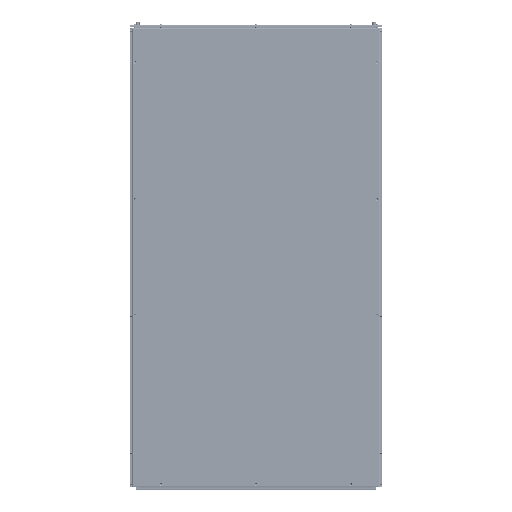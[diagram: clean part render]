
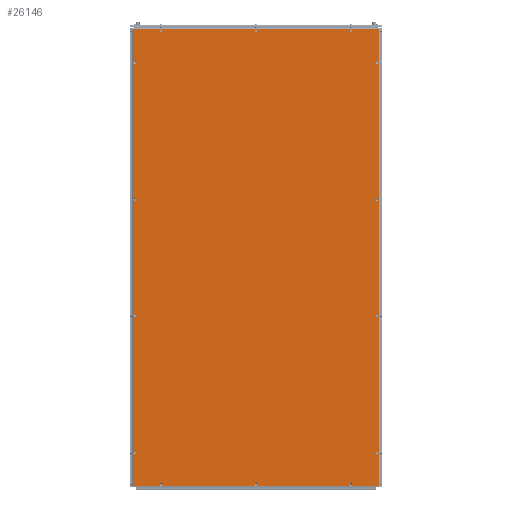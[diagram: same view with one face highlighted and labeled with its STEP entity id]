
A CAD part, left-side view. The second image highlights one B-rep face of the part: STEP entity #26146.
In plain terms, the highlighted planar face has unit normal (-1, 0, 0) as drawn and (1, 0, 0) by its records, which use the part's own axes.
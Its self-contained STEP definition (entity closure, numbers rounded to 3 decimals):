
#26146=ADVANCED_FACE('',(#162443,#162445,#162447,#162449,#162451,#162453,#162455,
#162457,#162459,#162461,#162463,#162465,#162467,#162469,#162471),#162473,.T.);
#162443=FACE_BOUND('',#162444,.T.);
#162444=EDGE_LOOP('',(#386777,#386778,#386779,#386780));
#162445=FACE_BOUND('',#162446,.T.);
#162446=EDGE_LOOP('',(#386781));
#162447=FACE_BOUND('',#162448,.T.);
#162448=EDGE_LOOP('',(#386782));
#162449=FACE_BOUND('',#162450,.T.);
#162450=EDGE_LOOP('',(#386783));
#162451=FACE_BOUND('',#162452,.T.);
#162452=EDGE_LOOP('',(#386784));
#162453=FACE_BOUND('',#162454,.T.);
#162454=EDGE_LOOP('',(#386785));
#162455=FACE_BOUND('',#162456,.T.);
#162456=EDGE_LOOP('',(#386786));
#162457=FACE_BOUND('',#162458,.T.);
#162458=EDGE_LOOP('',(#386787));
#162459=FACE_BOUND('',#162460,.T.);
#162460=EDGE_LOOP('',(#386788));
#162461=FACE_BOUND('',#162462,.T.);
#162462=EDGE_LOOP('',(#386789));
#162463=FACE_BOUND('',#162464,.T.);
#162464=EDGE_LOOP('',(#386790));
#162465=FACE_BOUND('',#162466,.T.);
#162466=EDGE_LOOP('',(#386791));
#162467=FACE_BOUND('',#162468,.T.);
#162468=EDGE_LOOP('',(#386792));
#162469=FACE_BOUND('',#162470,.T.);
#162470=EDGE_LOOP('',(#386793));
#162471=FACE_BOUND('',#162472,.T.);
#162472=EDGE_LOOP('',(#386794));
#162473=PLANE('',#162474);
#162474=AXIS2_PLACEMENT_3D('',#162475,#162476,#162477);
#162475=CARTESIAN_POINT('',(1.5,0.,0.));
#162476=DIRECTION('',(1.,0.,0.));
#162477=DIRECTION('',(0.,1.,0.));
#386777=ORIENTED_EDGE('',*,*,#435926,.T.);
#386778=ORIENTED_EDGE('',*,*,#435932,.T.);
#386779=ORIENTED_EDGE('',*,*,#435930,.T.);
#386780=ORIENTED_EDGE('',*,*,#435928,.T.);
#386781=ORIENTED_EDGE('',*,*,#435947,.T.);
#386782=ORIENTED_EDGE('',*,*,#435948,.T.);
#386783=ORIENTED_EDGE('',*,*,#435949,.T.);
#386784=ORIENTED_EDGE('',*,*,#435950,.T.);
#386785=ORIENTED_EDGE('',*,*,#435951,.T.);
#386786=ORIENTED_EDGE('',*,*,#435952,.T.);
#386787=ORIENTED_EDGE('',*,*,#435953,.T.);
#386788=ORIENTED_EDGE('',*,*,#435954,.T.);
#386789=ORIENTED_EDGE('',*,*,#435955,.T.);
#386790=ORIENTED_EDGE('',*,*,#435956,.T.);
#386791=ORIENTED_EDGE('',*,*,#435957,.T.);
#386792=ORIENTED_EDGE('',*,*,#435958,.T.);
#386793=ORIENTED_EDGE('',*,*,#435959,.T.);
#386794=ORIENTED_EDGE('',*,*,#435960,.T.);
#435926=EDGE_CURVE('',#503910,#503908,#503911,.T.);
#435928=EDGE_CURVE('',#503913,#503910,#503914,.T.);
#435930=EDGE_CURVE('',#503916,#503913,#503917,.T.);
#435932=EDGE_CURVE('',#503908,#503916,#503919,.T.);
#435947=EDGE_CURVE('',#503948,#503948,#503949,.F.);
#435948=EDGE_CURVE('',#503950,#503950,#503951,.F.);
#435949=EDGE_CURVE('',#503952,#503952,#503953,.F.);
#435950=EDGE_CURVE('',#503954,#503954,#503955,.F.);
#435951=EDGE_CURVE('',#503956,#503956,#503957,.F.);
#435952=EDGE_CURVE('',#503958,#503958,#503959,.F.);
#435953=EDGE_CURVE('',#503960,#503960,#503961,.F.);
#435954=EDGE_CURVE('',#503962,#503962,#503963,.F.);
#435955=EDGE_CURVE('',#503964,#503964,#503965,.F.);
#435956=EDGE_CURVE('',#503966,#503966,#503967,.F.);
#435957=EDGE_CURVE('',#503968,#503968,#503969,.F.);
#435958=EDGE_CURVE('',#503970,#503970,#503971,.F.);
#435959=EDGE_CURVE('',#503972,#503972,#503973,.F.);
#435960=EDGE_CURVE('',#503974,#503974,#503975,.T.);
#503908=VERTEX_POINT('',#658019);
#503910=VERTEX_POINT('',#658024);
#503911=LINE('',#658025,#658026);
#503913=VERTEX_POINT('',#658032);
#503914=LINE('',#658033,#658034);
#503916=VERTEX_POINT('',#658040);
#503917=LINE('',#658041,#658042);
#503919=LINE('',#658048,#658049);
#503948=VERTEX_POINT('',#658121);
#503949=CIRCLE('',#658122,6.954);
#503950=VERTEX_POINT('',#658126);
#503951=CIRCLE('',#658127,6.954);
#503952=VERTEX_POINT('',#658131);
#503953=CIRCLE('',#658132,6.954);
#503954=VERTEX_POINT('',#658136);
#503955=CIRCLE('',#658137,6.954);
#503956=VERTEX_POINT('',#658141);
#503957=CIRCLE('',#658142,6.954);
#503958=VERTEX_POINT('',#658146);
#503959=CIRCLE('',#658147,6.954);
#503960=VERTEX_POINT('',#658151);
#503961=CIRCLE('',#658152,6.954);
#503962=VERTEX_POINT('',#658156);
#503963=CIRCLE('',#658157,6.954);
#503964=VERTEX_POINT('',#658161);
#503965=CIRCLE('',#658162,6.954);
#503966=VERTEX_POINT('',#658166);
#503967=CIRCLE('',#658167,6.954);
#503968=VERTEX_POINT('',#658171);
#503969=CIRCLE('',#658172,6.954);
#503970=VERTEX_POINT('',#658176);
#503971=CIRCLE('',#658177,6.954);
#503972=VERTEX_POINT('',#658181);
#503973=CIRCLE('',#658182,6.954);
#503974=VERTEX_POINT('',#658186);
#503975=CIRCLE('',#658187,6.954);
#658019=CARTESIAN_POINT('',(1.5,-583.7,-1082.7));
#658024=CARTESIAN_POINT('',(1.5,-583.7,1082.7));
#658025=CARTESIAN_POINT('',(1.5,-583.7,1082.7));
#658026=VECTOR('',#658027,1.);
#658027=DIRECTION('',(0.,0.,-1.));
#658032=CARTESIAN_POINT('',(1.5,583.7,1082.7));
#658033=CARTESIAN_POINT('',(1.5,583.7,1082.7));
#658034=VECTOR('',#658035,1.);
#658035=DIRECTION('',(0.,-1.,0.));
#658040=CARTESIAN_POINT('',(1.5,583.7,-1082.7));
#658041=CARTESIAN_POINT('',(1.5,583.7,-1082.7));
#658042=VECTOR('',#658043,1.);
#658043=DIRECTION('',(0.,0.,1.));
#658048=CARTESIAN_POINT('',(1.5,-583.7,-1082.7));
#658049=VECTOR('',#658050,1.);
#658050=DIRECTION('',(0.,1.,0.));
#658121=CARTESIAN_POINT('',(1.5,6.954,-1073.5));
#658122=AXIS2_PLACEMENT_3D('',#658123,#658124,#658125);
#658123=CARTESIAN_POINT('',(1.5,0.,-1073.5));
#658124=DIRECTION('',(1.,0.,0.));
#658125=DIRECTION('',(0.,1.,0.));
#658126=CARTESIAN_POINT('',(1.5,6.954,1073.5));
#658127=AXIS2_PLACEMENT_3D('',#658128,#658129,#658130);
#658128=CARTESIAN_POINT('',(1.5,0.,1073.5));
#658129=DIRECTION('',(1.,0.,0.));
#658130=DIRECTION('',(0.,1.,0.));
#658131=CARTESIAN_POINT('',(1.5,456.954,1073.5));
#658132=AXIS2_PLACEMENT_3D('',#658133,#658134,#658135);
#658133=CARTESIAN_POINT('',(1.5,450.,1073.5));
#658134=DIRECTION('',(1.,0.,0.));
#658135=DIRECTION('',(0.,1.,0.));
#658136=CARTESIAN_POINT('',(1.5,456.954,-1073.5));
#658137=AXIS2_PLACEMENT_3D('',#658138,#658139,#658140);
#658138=CARTESIAN_POINT('',(1.5,450.,-1073.5));
#658139=DIRECTION('',(1.,0.,0.));
#658140=DIRECTION('',(0.,1.,0.));
#658141=CARTESIAN_POINT('',(1.5,-443.046,1073.5));
#658142=AXIS2_PLACEMENT_3D('',#658143,#658144,#658145);
#658143=CARTESIAN_POINT('',(1.5,-450.,1073.5));
#658144=DIRECTION('',(1.,0.,0.));
#658145=DIRECTION('',(0.,1.,0.));
#658146=CARTESIAN_POINT('',(1.5,-443.046,-1073.5));
#658147=AXIS2_PLACEMENT_3D('',#658148,#658149,#658150);
#658148=CARTESIAN_POINT('',(1.5,-450.,-1073.5));
#658149=DIRECTION('',(1.,0.,0.));
#658150=DIRECTION('',(0.,1.,0.));
#658151=CARTESIAN_POINT('',(1.5,580.454,-275.));
#658152=AXIS2_PLACEMENT_3D('',#658153,#658154,#658155);
#658153=CARTESIAN_POINT('',(1.5,573.5,-275.));
#658154=DIRECTION('',(1.,0.,0.));
#658155=DIRECTION('',(0.,1.,0.));
#658156=CARTESIAN_POINT('',(1.5,580.454,275.));
#658157=AXIS2_PLACEMENT_3D('',#658158,#658159,#658160);
#658158=CARTESIAN_POINT('',(1.5,573.5,275.));
#658159=DIRECTION('',(1.,0.,0.));
#658160=DIRECTION('',(0.,1.,0.));
#658161=CARTESIAN_POINT('',(1.5,-566.546,-275.));
#658162=AXIS2_PLACEMENT_3D('',#658163,#658164,#658165);
#658163=CARTESIAN_POINT('',(1.5,-573.5,-275.));
#658164=DIRECTION('',(1.,0.,0.));
#658165=DIRECTION('',(0.,1.,0.));
#658166=CARTESIAN_POINT('',(1.5,-566.546,275.));
#658167=AXIS2_PLACEMENT_3D('',#658168,#658169,#658170);
#658168=CARTESIAN_POINT('',(1.5,-573.5,275.));
#658169=DIRECTION('',(1.,0.,0.));
#658170=DIRECTION('',(0.,1.,0.));
#658171=CARTESIAN_POINT('',(1.5,580.454,925.));
#658172=AXIS2_PLACEMENT_3D('',#658173,#658174,#658175);
#658173=CARTESIAN_POINT('',(1.5,573.5,925.));
#658174=DIRECTION('',(1.,0.,0.));
#658175=DIRECTION('',(0.,1.,0.));
#658176=CARTESIAN_POINT('',(1.5,580.454,-925.));
#658177=AXIS2_PLACEMENT_3D('',#658178,#658179,#658180);
#658178=CARTESIAN_POINT('',(1.5,573.5,-925.));
#658179=DIRECTION('',(1.,0.,0.));
#658180=DIRECTION('',(0.,1.,0.));
#658181=CARTESIAN_POINT('',(1.5,-566.546,-925.));
#658182=AXIS2_PLACEMENT_3D('',#658183,#658184,#658185);
#658183=CARTESIAN_POINT('',(1.5,-573.5,-925.));
#658184=DIRECTION('',(1.,0.,0.));
#658185=DIRECTION('',(0.,1.,0.));
#658186=CARTESIAN_POINT('',(1.5,-566.546,925.));
#658187=AXIS2_PLACEMENT_3D('',#658188,#658189,#658190);
#658188=CARTESIAN_POINT('',(1.5,-573.5,925.));
#658189=DIRECTION('',(-1.,0.,0.));
#658190=DIRECTION('',(0.,1.,0.));
